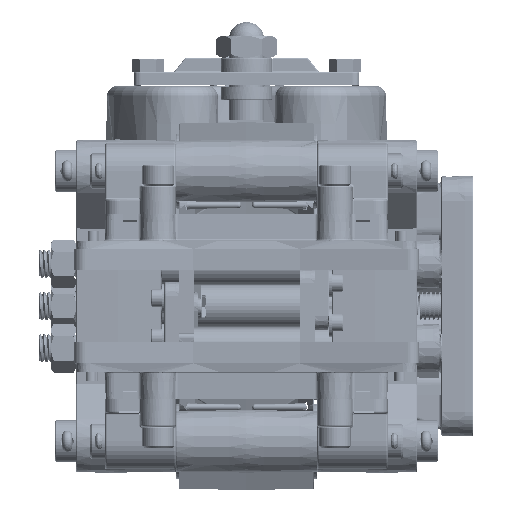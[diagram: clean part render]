
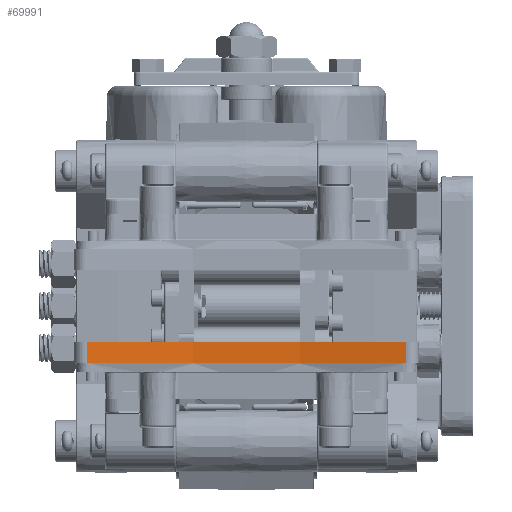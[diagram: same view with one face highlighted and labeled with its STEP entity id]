
A CAD part, left-side view. The second image highlights one B-rep face of the part: STEP entity #69991.
In plain terms, the highlighted cylindrical face has radius 335.28 mm (diameter 670.56 mm), a partial arc.
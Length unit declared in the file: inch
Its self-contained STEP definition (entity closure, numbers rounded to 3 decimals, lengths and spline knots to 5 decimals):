
#10491 = CARTESIAN_POINT ( 'NONE',  ( -2.80798, -2.83473, -1.015 ) ) ;
#11376 = CARTESIAN_POINT ( 'NONE',  ( -2.80798, 2.83473, -1.015 ) ) ;
#14907 = LINE ( 'NONE', #161072, #100428 ) ;
#15891 = ORIENTED_EDGE ( 'NONE', *, *, #170601, .F. ) ;
#20086 = ORIENTED_EDGE ( 'NONE', *, *, #153183, .T. ) ;
#23664 = ORIENTED_EDGE ( 'NONE', *, *, #185335, .T. ) ;
#24478 = EDGE_CURVE ( 'NONE', #97035, #104634, #194794, .T. ) ;
#27780 = CARTESIAN_POINT ( 'NONE',  ( -2.80798, -2.83473, -0.64 ) ) ;
#34843 = DIRECTION ( 'NONE',  ( 0., 0., 1. ) ) ;
#52130 = EDGE_LOOP ( 'NONE', ( #23664, #15891, #193555, #20086 ) ) ;
#69891 = CARTESIAN_POINT ( 'NONE',  ( -15.7, 0., -1.015 ) ) ;
#69991 = ADVANCED_FACE ( 'NONE', ( #118458 ), #178398, .F. ) ;
#85370 = DIRECTION ( 'NONE',  ( 0., 0., 1. ) ) ;
#87193 = AXIS2_PLACEMENT_3D ( 'NONE', #131080, #34843, #147080 ) ;
#97035 = VERTEX_POINT ( 'NONE', #10491 ) ;
#99079 = LINE ( 'NONE', #11376, #179100 ) ;
#100428 = VECTOR ( 'NONE', #160401, 39.37008 ) ;
#101563 = AXIS2_PLACEMENT_3D ( 'NONE', #69891, #85370, #181872 ) ;
#104634 = VERTEX_POINT ( 'NONE', #150742 ) ;
#111143 = VERTEX_POINT ( 'NONE', #27780 ) ;
#116542 = CIRCLE ( 'NONE', #87193, 13.2 ) ;
#117646 = AXIS2_PLACEMENT_3D ( 'NONE', #180558, #187453, #187183 ) ;
#118458 = FACE_OUTER_BOUND ( 'NONE', #52130, .T. ) ;
#121554 = VERTEX_POINT ( 'NONE', #199611 ) ;
#131080 = CARTESIAN_POINT ( 'NONE',  ( -15.7, 0., -0.64 ) ) ;
#147080 = DIRECTION ( 'NONE',  ( 0., -1., 0. ) ) ;
#150742 = CARTESIAN_POINT ( 'NONE',  ( -2.80798, 2.83473, -1.015 ) ) ;
#153183 = EDGE_CURVE ( 'NONE', #97035, #111143, #14907, .T. ) ;
#160401 = DIRECTION ( 'NONE',  ( 0., 0., 1. ) ) ;
#161072 = CARTESIAN_POINT ( 'NONE',  ( -2.80798, -2.83473, -1.015 ) ) ;
#170601 = EDGE_CURVE ( 'NONE', #104634, #121554, #99079, .T. ) ;
#172554 = DIRECTION ( 'NONE',  ( 0., 0., 1. ) ) ;
#178398 = CYLINDRICAL_SURFACE ( 'NONE', #101563, 13.2 ) ;
#179100 = VECTOR ( 'NONE', #172554, 39.37008 ) ;
#180558 = CARTESIAN_POINT ( 'NONE',  ( -15.7, 0., -1.015 ) ) ;
#181872 = DIRECTION ( 'NONE',  ( 0., -1., 0. ) ) ;
#185335 = EDGE_CURVE ( 'NONE', #111143, #121554, #116542, .T. ) ;
#187183 = DIRECTION ( 'NONE',  ( 0., -1., 0. ) ) ;
#187453 = DIRECTION ( 'NONE',  ( 0., 0., 1. ) ) ;
#193555 = ORIENTED_EDGE ( 'NONE', *, *, #24478, .F. ) ;
#194794 = CIRCLE ( 'NONE', #117646, 13.2 ) ;
#199611 = CARTESIAN_POINT ( 'NONE',  ( -2.80798, 2.83473, -0.64 ) ) ;
